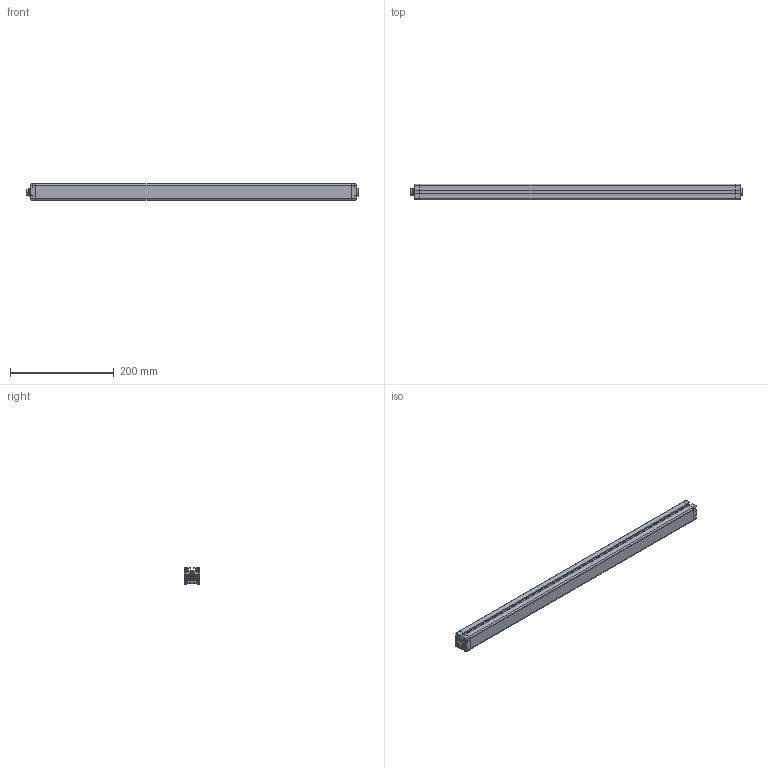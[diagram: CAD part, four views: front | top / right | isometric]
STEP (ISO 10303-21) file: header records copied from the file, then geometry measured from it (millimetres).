
FILE_DESCRIPTION(/* description */ (''),/* implementation_level */ '2;1');
FILE_NAME(/* name */ 'THS5-120.stp',/* time_stamp */ '2024-09-18T10:33:05+08:00',/* author */ (''),/* organization */ (''),/* preprocessor_version */ 'ST-DEVELOPER v16',/* originating_system */ 'SIEMENS PLM Software NX 11.0',/* authorisation */ '');
FILE_SCHEMA (('AP203_CONFIGURATION_CONTROLLED_3D_DESIGN_OF_MECHANICAL_PARTS_AND_ASSEMBLIES_MIM_LF { 1 0 10303 403 2 1 2}'));
Length unit declared in the file: millimetre
Products named in the file (9): 16960; 14961; 12962; 13963; 102964; 101965; 11966; ASM0002_ASM967; THS5-64_stp
Assembly tree (8 placements, depth 3):
  THS5-64_stp
    11966
    101965
    102964
    13963
    12962
    ASM0002_ASM967
      14961
      16960
Bounding box: 639.5 x 30.3 x 31.3 mm (x, y, z)
Volume: 210708.9 mm3; surface area: 239548.8 mm2
Topology: 5 solids, 7 shells, 540 faces, 1505 edges, 993 vertices
Faces by surface type: plane 382, cylinder 144, cone 14
Entity records: 18340 total; most frequent: CARTESIAN_POINT 3095, ORIENTED_EDGE 3006, DIRECTION 2911, EDGE_CURVE 1505, LINE 1173, VECTOR 1173, VERTEX_POINT 993, AXIS2_PLACEMENT_3D 869
